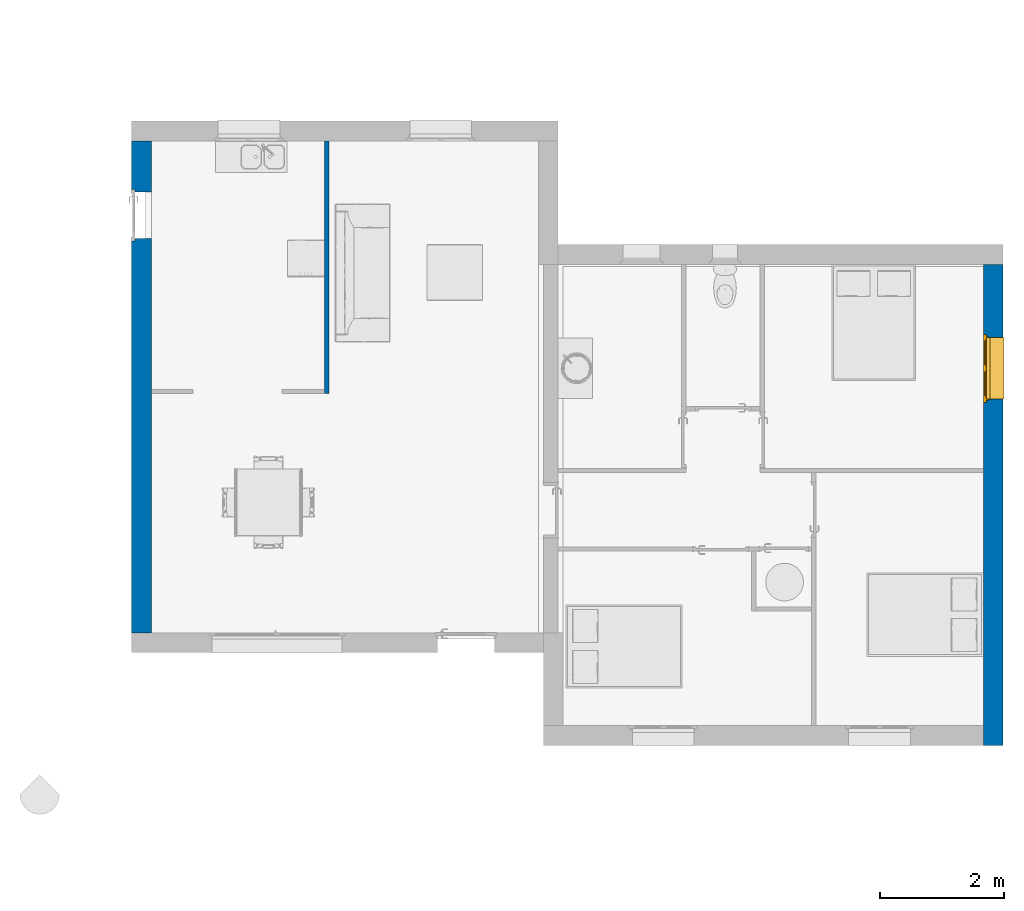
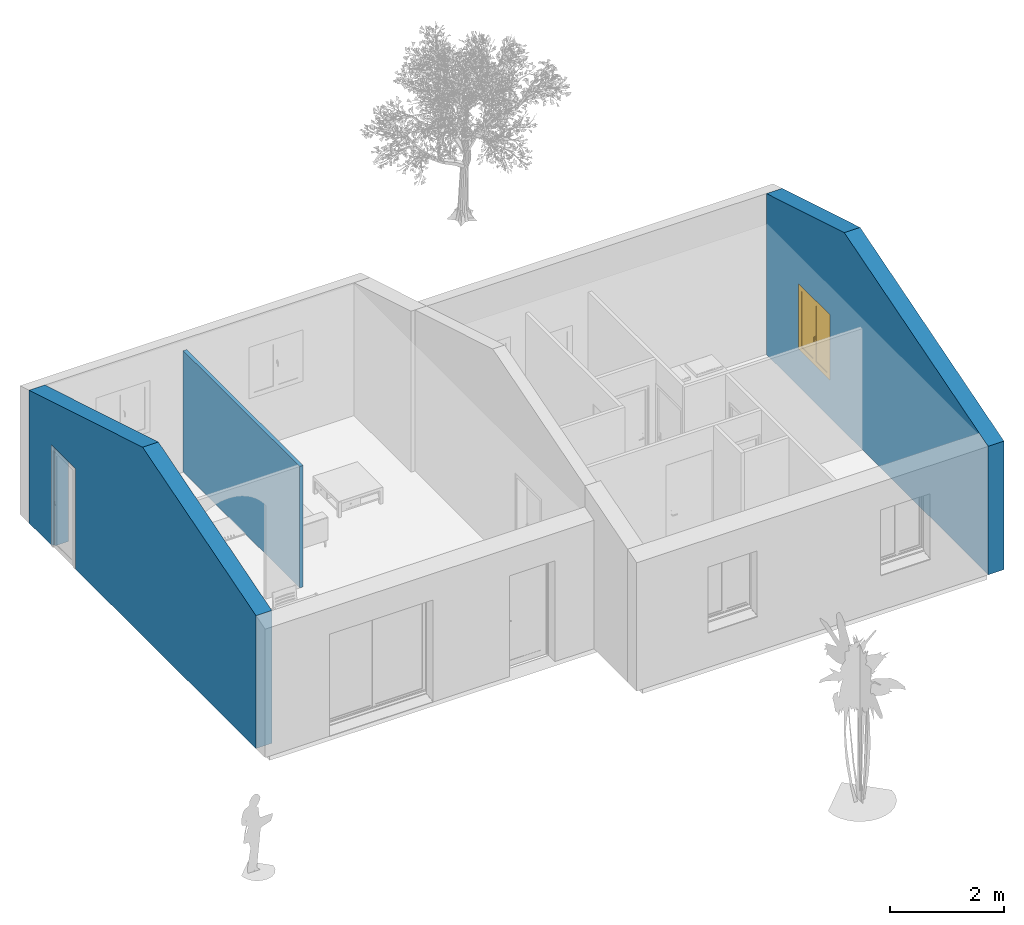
# One storey, part 4 of 18: 3 walls, 1 window, 2 openings.
"""IFC2X3 building model written with IfcOpenShell, lengths in metres."""

from ifc_helpers import new_model, entity, si_unit, converted_unit, derived_unit, direction, frame, frame_2d, origin, place, context, subcontext, project, spatial, polyline, rectangle, extrude, clip, bounded_halfspace, faceted_brep, source, transform, mapped, material, material_list, layer, layer_set, layer_usage, type_object, type_shapes, element, fill, save


model = new_model("IFC2X3")

# Units and contexts
model_context = context("Model", 3, precision=1e-05, world=origin(), true_north=direction((6.12303176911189e-17, 1.0)))
body_context = subcontext(model_context, "Body", "Model", "MODEL_VIEW")
ifc_project = project(units=[si_unit("LENGTHUNIT", "METRE"), si_unit("AREAUNIT", "SQUARE_METRE"), si_unit("VOLUMEUNIT", "CUBIC_METRE"), converted_unit("PLANEANGLEUNIT", "DEGREE", entity("IfcRatioMeasure", 0.0174532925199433), si_unit("PLANEANGLEUNIT", "RADIAN"), dimensions=[0, 0, 0, 0, 0, 0, 0]), si_unit("MASSUNIT", "GRAM", prefix="KILO"), derived_unit("MASSDENSITYUNIT", [(si_unit("MASSUNIT", "GRAM", prefix="KILO"), 1), (si_unit("LENGTHUNIT", "METRE"), -3)]), derived_unit("MOMENTOFINERTIAUNIT", [(si_unit("LENGTHUNIT", "METRE"), 4)]), si_unit("TIMEUNIT", "SECOND"), si_unit("FREQUENCYUNIT", "HERTZ"), si_unit("THERMODYNAMICTEMPERATUREUNIT", "DEGREE_CELSIUS"), derived_unit("THERMALTRANSMITTANCEUNIT", [(si_unit("MASSUNIT", "GRAM", prefix="KILO"), 1), (si_unit("THERMODYNAMICTEMPERATUREUNIT", "KELVIN"), -1), (si_unit("TIMEUNIT", "SECOND"), -3)]), derived_unit("VOLUMETRICFLOWRATEUNIT", [(si_unit("LENGTHUNIT", "METRE"), 3), (si_unit("TIMEUNIT", "SECOND"), -1)]), si_unit("ELECTRICCURRENTUNIT", "AMPERE"), si_unit("ELECTRICVOLTAGEUNIT", "VOLT"), si_unit("POWERUNIT", "WATT"), si_unit("FORCEUNIT", "NEWTON", prefix="KILO"), si_unit("ILLUMINANCEUNIT", "LUX"), si_unit("LUMINOUSFLUXUNIT", "LUMEN"), si_unit("LUMINOUSINTENSITYUNIT", "CANDELA"), derived_unit("USERDEFINED", [(si_unit("MASSUNIT", "GRAM", prefix="KILO"), -1), (si_unit("LENGTHUNIT", "METRE"), -2), (si_unit("TIMEUNIT", "SECOND"), 3), (si_unit("LUMINOUSFLUXUNIT", "LUMEN"), 1)]), derived_unit("LINEARVELOCITYUNIT", [(si_unit("LENGTHUNIT", "METRE"), 1), (si_unit("TIMEUNIT", "SECOND"), -1)]), si_unit("PRESSUREUNIT", "PASCAL"), derived_unit("USERDEFINED", [(si_unit("LENGTHUNIT", "METRE"), -2), (si_unit("MASSUNIT", "GRAM", prefix="KILO"), 1), (si_unit("TIMEUNIT", "SECOND"), -2)]), derived_unit("LINEARFORCEUNIT", [(si_unit("MASSUNIT", "GRAM", prefix="KILO"), 1), (si_unit("LENGTHUNIT", "METRE"), 1), (si_unit("TIMEUNIT", "SECOND"), -2), (si_unit("LENGTHUNIT", "METRE"), -1)]), derived_unit("PLANARFORCEUNIT", [(si_unit("MASSUNIT", "GRAM", prefix="KILO"), 1), (si_unit("LENGTHUNIT", "METRE"), 1), (si_unit("TIMEUNIT", "SECOND"), -2), (si_unit("LENGTHUNIT", "METRE"), -2)])], contexts=[model_context])

# Site, building, storey
site_placement = place(None, origin())
site = spatial("IfcSite", under=ifc_project, at=site_placement, Name="Surface", CompositionType="ELEMENT")
building_placement = place(site_placement, origin())
building = spatial("IfcBuilding", under=site, at=building_placement, CompositionType="ELEMENT")
storey_placement = place(building_placement, origin())
storey = spatial("IfcBuildingStorey", under=building, at=storey_placement, Name="RDC", CompositionType="ELEMENT", Elevation=-1.94916083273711e-14)

# Wall, opening, window
ifc_material_1 = material(Name="Maçonnerie - Enduit")
ifc_layer_1 = layer(ifc_material_1, 0.02)
ifc_material_2 = material(Name="Blocs béton manufacturés")
ifc_layer_2 = layer(ifc_material_2, 0.2)
ifc_material_3 = material(Name="Maçonnerie - Isolant")
ifc_layer_3 = layer(ifc_material_3, 0.1)
ifc_layer_set_1 = layer_set([ifc_layer_1, ifc_layer_2, ifc_layer_3], Name="Mur de base:Ext. Parpaing 20 + Isolant 10")
ifc_layer_usage_1 = layer_usage(ifc_layer_set_1, "AXIS2", "NEGATIVE", 0.16)
wall_type_1 = type_object("IfcWallType", Name="Mur de base:Ext. Parpaing 20 + Isolant 10", PredefinedType="STANDARD", material=ifc_layer_set_1)
wall_1_placement = place(storey_placement, frame((-4.06829269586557, 6.66737977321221, 0.0), z_axis=(0.0, 0.0, 1.0), x_axis=(0.0, -1.0, 0.0)))
wall_1 = element("IfcWallStandardCase", 1, at=wall_1_placement, inside=storey, type_object=wall_type_1, material=ifc_layer_usage_1, Name="Mur de base:Ext. Parpaing 20 + Isolant 10", ObjectType="Mur de base:Ext. Parpaing 20 + Isolant 10", context=body_context, shape_type="Clipping", body=[
    clip(clip(extrude(rectangle(XDim=7.78, YDim=0.32, at=frame_2d((3.89, 0.0), x_axis=(-1.0, 0.0))), origin(), (0.0, 0.0, 1.0), 4.26500000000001), bounded_halfspace(frame((0.0, -0.16, 3.44600000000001), z_axis=(-0.287347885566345, 0.0, 0.957826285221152), x_axis=(0.0, -1.0, 0.0)), False, frame((0.0, -0.16, 3.44600000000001)), polyline([(0.0, 0.0), (2.73000000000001, 0.0), (2.73000000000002, 0.319999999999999), (0.0, 0.32), (0.0, 0.0)]))), bounded_halfspace(frame((2.73000000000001, -0.16, 4.26500000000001), z_axis=(0.287347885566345, 0.0, 0.957826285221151), x_axis=(0.0, 1.0, 0.0)), False, frame((2.73000000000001, -0.16, 4.26500000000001)), polyline([(0.0, 0.0), (4.72999999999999, 0.0), (5.04999999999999, 0.0), (5.04999999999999, 0.32), (0.0, 0.32), (0.0, 0.0)]))),
])
opening_1_placement = place(wall_1_placement, frame((2.23, -0.5, 0.724039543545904), z_axis=(0.0, 0.0, 1.0), x_axis=(0.0, 1.0, 0.0)))
opening_1 = element("IfcOpeningElement", 2, at=opening_1_placement, cuts=wall_1, Name="Mur de base:Ext. Parpaing 20 + Isolant 10", ObjectType="Opening", context=body_context, shape_type="Brep", body=[
    faceted_brep([(0.419999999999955, 1.05, 0.0759604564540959), (0.440000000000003, 1.05, 0.0759604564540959), (0.440000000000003, 1.05, 1.4259604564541), (1.0, 1.05, 1.4259604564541), (1.0, 1.05, 0.0), (0.419999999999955, 1.05, 0.0609604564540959), (0.0, 0.0500000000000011, 0.0759604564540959), (0.340000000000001, 0.0500000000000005, 0.0759604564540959), (0.340000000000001, 0.0500000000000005, 1.42596045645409), (0.0, 0.0500000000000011, 1.4259604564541), (0.0, 1.05, 0.0759604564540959), (0.340000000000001, 1.05, 0.0759604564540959), (0.340000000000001, 1.1, 0.0759604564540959), (0.39, 1.1, 0.0759604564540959), (0.39, 1.06, 0.0759604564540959), (0.440000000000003, 1.06, 0.0759604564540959), (0.419999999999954, 0.0500000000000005, 0.0759604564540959), (0.440000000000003, 0.05, 0.0759604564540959), (0.440000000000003, 0.0400000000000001, 0.0759604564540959), (0.39, 0.0400000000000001, 0.0759604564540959), (0.39, 0.0, 0.0759604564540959), (0.340000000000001, 0.0, 0.0759604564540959), (0.0, 1.05, 1.4259604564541), (0.440000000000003, 0.0500000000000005, 1.4259604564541), (1.0, 0.0499999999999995, 1.4259604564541), (1.0, 0.0499999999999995, 0.0), (0.419999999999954, 0.0500000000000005, 0.0609604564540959), (0.340000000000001, 1.1, 1.47596045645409), (0.39, 1.1, 1.47596045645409), (0.39, 0.0, 1.47596045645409), (0.39, 0.0400000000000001, 1.4359604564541), (0.39, 1.06, 1.4359604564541), (0.440000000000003, 1.06, 1.4359604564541), (0.440000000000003, 0.039999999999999, 1.4359604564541), (0.340000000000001, 1.05, 1.4259604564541), (0.340000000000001, 0.0, 1.47596045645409)], [[[0, 1, 2, 3, 4, 5]], [[6, 7, 8, 9]], [[10, 11, 12, 13, 14, 15, 1, 0, 16, 17, 18, 19, 20, 21, 7, 6]], [[10, 6, 9, 22]], [[3, 2, 23, 24]], [[3, 24, 25, 4]], [[4, 25, 26, 5]], [[5, 26, 16, 0]], [[12, 27, 28, 13]], [[13, 28, 29, 20, 19, 30, 31, 14]], [[14, 31, 32, 15]], [[15, 32, 33, 18, 17, 23, 2, 1]], [[11, 34, 8, 7, 21, 35, 27, 12]], [[27, 35, 29, 28]], [[30, 33, 32, 31]], [[29, 35, 21, 20]], [[19, 18, 33, 30]], [[9, 8, 34, 22]], [[24, 23, 17, 16, 26, 25]], [[22, 34, 11, 10]]]),
])
ifc_material_4 = material(Name="Fenêtre - Poignée")
ifc_material_5 = material(Name="Fenêtre - Appui")
ifc_material_6 = material(Name="Fenêtre - Cadre")
ifc_material_7 = material(Name="Fenêtre - Vitrage")
ifc_material_list_1 = material_list([ifc_material_4, ifc_material_5, ifc_material_6, ifc_material_7])
ifc_material_list_2 = material_list([ifc_material_7, ifc_material_6, ifc_material_6, ifc_material_5, ifc_material_4])
window_style = type_object("IfcWindowStyle", Name="2 Vantaux - Droits:1m x 1.35m - Appui Alu", ConstructionType="NOTDEFINED", OperationType="DOUBLE_PANEL_VERTICAL", ParameterTakesPrecedence=False, Sizeable=False, material=ifc_material_list_2)
shared_shape = source(origin(), body_context, "Body", "Brep", [
    faceted_brep([(0.580646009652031, -0.66600000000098, 0.697994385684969), (0.582033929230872, -0.66600000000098, 0.696606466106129), (0.582033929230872, -0.66600000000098, 0.685292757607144), (0.580667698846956, -0.66600000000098, 0.683926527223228), (0.569332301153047, -0.66600000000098, 0.683926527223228), (0.567966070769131, -0.66600000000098, 0.685292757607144), (0.567966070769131, -0.66600000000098, 0.696606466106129), (0.569353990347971, -0.66600000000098, 0.697994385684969), (0.580646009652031, -0.678913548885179, 0.697994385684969), (0.582033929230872, -0.67833865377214, 0.696606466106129), (0.582033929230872, -0.69164600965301, 0.683299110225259), (0.582033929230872, -0.69164600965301, 0.595960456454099), (0.582033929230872, -0.680332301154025, 0.595960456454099), (0.582033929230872, -0.680332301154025, 0.678612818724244), (0.582033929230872, -0.673652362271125, 0.685292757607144), (0.580667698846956, -0.673086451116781, 0.683926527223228), (0.569332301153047, -0.673086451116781, 0.683926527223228), (0.567966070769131, -0.673652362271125, 0.685292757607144), (0.567966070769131, -0.680332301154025, 0.678612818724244), (0.567966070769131, -0.680332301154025, 0.595960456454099), (0.567966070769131, -0.69164600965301, 0.595960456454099), (0.567966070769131, -0.69164600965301, 0.683299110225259), (0.567966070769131, -0.67833865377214, 0.696606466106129), (0.569353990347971, -0.678913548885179, 0.697994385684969), (0.580646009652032, -0.69303392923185, 0.683874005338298), (0.580667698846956, -0.67896607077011, 0.6780469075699), (0.569332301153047, -0.67896607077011, 0.6780469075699), (0.569353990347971, -0.69303392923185, 0.683874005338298), (0.580646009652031, -0.69303392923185, 0.595960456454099), (0.569353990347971, -0.69303392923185, 0.595960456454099), (0.569332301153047, -0.678966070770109, 0.595960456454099), (0.580667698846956, -0.678966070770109, 0.595960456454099)], [[[0, 1, 2, 3, 4, 5, 6, 7]], [[1, 0, 8, 9]], [[2, 1, 9, 10, 11, 12, 13, 14]], [[3, 2, 14, 15]], [[4, 3, 15, 16]], [[5, 4, 16, 17]], [[6, 5, 17, 18, 19, 20, 21, 22]], [[7, 6, 22, 23]], [[0, 7, 23, 8]], [[9, 8, 24, 10]], [[15, 14, 13, 25]], [[16, 15, 25, 26]], [[17, 16, 26, 18]], [[23, 22, 21, 27]], [[8, 23, 27, 24]], [[28, 29, 20, 19, 30, 31, 12, 11]], [[10, 24, 28, 11]], [[25, 13, 12, 31]], [[26, 25, 31, 30]], [[18, 26, 30, 19]], [[27, 21, 20, 29]], [[24, 27, 29, 28]]]),
    faceted_brep([(0.582000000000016, -0.666000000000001, 0.715960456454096), (0.568, -0.666000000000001, 0.715960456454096), (0.563, -0.666000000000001, 0.710960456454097), (0.563, -0.666000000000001, 0.640960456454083), (0.567999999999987, -0.666000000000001, 0.635960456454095), (0.582000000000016, -0.666000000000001, 0.635960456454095), (0.587000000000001, -0.666000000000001, 0.640960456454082), (0.587000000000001, -0.666000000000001, 0.710960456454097), (0.582000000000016, -0.660000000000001, 0.715960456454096), (0.587000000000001, -0.660000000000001, 0.710960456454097), (0.587000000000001, -0.660000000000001, 0.640960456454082), (0.582000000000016, -0.660000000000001, 0.635960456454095), (0.567999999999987, -0.660000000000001, 0.635960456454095), (0.563, -0.660000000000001, 0.640960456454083), (0.563, -0.660000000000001, 0.710960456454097), (0.568, -0.660000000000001, 0.715960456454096)], [[[0, 1, 2, 3, 4, 5, 6, 7]], [[8, 9, 10, 11, 12, 13, 14, 15]], [[1, 0, 8, 15]], [[2, 1, 15, 14]], [[3, 2, 14, 13]], [[4, 3, 13, 12]], [[5, 4, 12, 11]], [[6, 5, 11, 10]], [[7, 6, 10, 9]], [[0, 7, 9, 8]]]),
    faceted_brep([(1.05, -0.324999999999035, 0.0394140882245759), (1.05, -0.574999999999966, 0.0656901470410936), (1.05, -0.574999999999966, 0.075960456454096), (1.05, -0.579999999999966, 0.075960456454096), (1.05, -0.579999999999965, 0.0609604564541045), (1.05, -0.329999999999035, 0.0346843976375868), (1.05, -0.329999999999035, 0.0243838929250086), (1.05, -0.324999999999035, 0.0238583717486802), (0.0499999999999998, -0.324999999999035, 0.0394140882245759), (0.0499999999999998, -0.324999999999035, 0.0238583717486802), (0.0499999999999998, -0.329999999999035, 0.0243838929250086), (0.0499999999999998, -0.329999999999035, 0.0346843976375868), (0.0499999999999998, -0.579999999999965, 0.0609604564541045), (0.0499999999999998, -0.579999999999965, 0.075960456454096), (0.0499999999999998, -0.574999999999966, 0.075960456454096), (0.0499999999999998, -0.574999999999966, 0.0656901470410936)], [[[0, 1, 2, 3, 4, 5, 6, 7]], [[8, 9, 10, 11, 12, 13, 14, 15]], [[1, 0, 8, 15]], [[2, 1, 15, 14]], [[3, 2, 14, 13]], [[4, 3, 13, 12]], [[5, 4, 12, 11]], [[6, 5, 11, 10]], [[7, 6, 10, 9]], [[0, 7, 9, 8]]]),
    faceted_brep([(0.0500000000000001, -0.324999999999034, 0.0408400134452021), (0.0500000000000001, -0.324999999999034, 0.0394140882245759), (0.0499999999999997, -0.574999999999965, 0.0656901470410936), (0.0499999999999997, -0.574999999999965, 0.0707176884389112), (0.0500000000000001, -0.328581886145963, 0.0448181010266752), (0.0500000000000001, -0.326027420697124, 0.0435165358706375), (0.0549999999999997, -0.574999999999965, 0.0707176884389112), (0.0549999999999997, -0.574999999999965, 0.0656901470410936), (0.0550000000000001, -0.324999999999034, 0.0394140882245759), (0.0550000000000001, -0.324999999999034, 0.0408400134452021), (0.0550000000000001, -0.326027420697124, 0.0435165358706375), (0.0550000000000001, -0.328581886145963, 0.0448181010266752)], [[[0, 1, 2, 3, 4, 5]], [[6, 7, 8, 9, 10, 11]], [[2, 1, 8, 7]], [[3, 2, 7, 6]], [[4, 3, 6, 11]], [[4, 11, 10, 5]], [[10, 9, 0, 5]], [[1, 0, 9, 8]]]),
    faceted_brep([(1.045, -0.324999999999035, 0.0408400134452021), (1.045, -0.324999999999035, 0.0394140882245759), (1.045, -0.574999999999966, 0.0656901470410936), (1.045, -0.574999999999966, 0.0707176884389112), (1.045, -0.328581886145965, 0.0448181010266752), (1.045, -0.326027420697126, 0.0435165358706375), (1.05, -0.574999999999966, 0.0707176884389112), (1.05, -0.574999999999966, 0.0656901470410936), (1.05, -0.324999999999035, 0.0394140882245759), (1.05, -0.324999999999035, 0.0408400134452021), (1.05, -0.326027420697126, 0.0435165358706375), (1.05, -0.328581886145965, 0.0448181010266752)], [[[0, 1, 2, 3, 4, 5]], [[6, 7, 8, 9, 10, 11]], [[2, 1, 8, 7]], [[3, 2, 7, 6]], [[4, 3, 6, 11]], [[4, 11, 10, 5]], [[10, 9, 0, 5]], [[1, 0, 9, 8]]]),
    faceted_brep([(0.549999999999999, -0.619999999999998, 1.4259604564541), (0.549999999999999, -0.65999999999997, 1.4259604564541), (0.549999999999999, -0.65999999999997, 0.125960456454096), (0.549999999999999, -0.619999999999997, 0.125960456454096), (0.0499999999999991, -0.659999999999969, 0.125960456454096), (0.0499999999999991, -0.619999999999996, 0.125960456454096), (0.0499999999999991, -0.659999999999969, 1.4259604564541), (0.0999999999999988, -0.659999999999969, 0.175960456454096), (0.0999999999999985, -0.659999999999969, 1.3759604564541), (0.5, -0.65999999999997, 1.3759604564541), (0.5, -0.65999999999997, 0.175960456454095), (0.049999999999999, -0.619999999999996, 1.4259604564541), (0.5, -0.619999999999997, 0.175960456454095), (0.5, -0.619999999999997, 1.3759604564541), (0.0999999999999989, -0.619999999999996, 1.3759604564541), (0.0999999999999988, -0.619999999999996, 0.175960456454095)], [[[0, 1, 2, 3]], [[3, 2, 4, 5]], [[2, 1, 6, 4], [7, 8, 9, 10]], [[5, 4, 6, 11]], [[5, 11, 0, 3], [12, 13, 14, 15]], [[9, 13, 12, 10]], [[10, 12, 15, 7]], [[7, 15, 14, 8]], [[11, 6, 1, 0]], [[8, 14, 13, 9]]]),
    faceted_brep([(0.6, -0.634000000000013, 0.175960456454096), (0.6, -0.634000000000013, 1.37596045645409), (1.0, -0.634000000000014, 1.37596045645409), (1.0, -0.634000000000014, 0.175960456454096), (0.6, -0.646000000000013, 0.175960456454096), (0.599999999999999, -0.646000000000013, 1.37596045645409), (1.0, -0.646000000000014, 1.37596045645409), (1.0, -0.646000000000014, 0.175960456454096)], [[[0, 1, 2, 3]], [[1, 0, 4, 5]], [[3, 2, 6, 7]], [[0, 3, 7, 4]], [[2, 1, 5, 6]], [[4, 7, 6, 5]]]),
    faceted_brep([(0.5, -0.634000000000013, 0.175960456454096), (0.5, -0.634000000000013, 1.3759604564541), (0.5, -0.646000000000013, 1.3759604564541), (0.5, -0.646000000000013, 0.175960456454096), (0.0999999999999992, -0.634000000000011, 0.175960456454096), (0.0999999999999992, -0.646000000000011, 0.175960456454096), (0.0999999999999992, -0.634000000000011, 1.3759604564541), (0.0999999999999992, -0.646000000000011, 1.3759604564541)], [[[0, 1, 2, 3]], [[4, 0, 3, 5]], [[6, 4, 5, 7]], [[7, 5, 3, 2]], [[1, 6, 7, 2]], [[6, 1, 0, 4]]]),
    faceted_brep([(0.6, -0.620000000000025, 1.37596045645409), (0.599999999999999, -0.660000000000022, 1.3759604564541), (0.6, -0.660000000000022, 0.175960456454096), (0.6, -0.620000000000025, 0.175960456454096), (1.0, -0.660000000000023, 0.175960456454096), (1.0, -0.620000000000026, 0.175960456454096), (1.0, -0.660000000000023, 1.37596045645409), (1.05, -0.660000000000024, 0.125960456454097), (1.05, -0.660000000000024, 1.42596045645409), (0.55, -0.660000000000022, 1.42596045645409), (0.55, -0.660000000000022, 0.125960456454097), (1.0, -0.620000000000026, 1.37596045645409), (0.55, -0.620000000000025, 0.125960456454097), (0.55, -0.620000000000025, 1.42596045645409), (1.05, -0.620000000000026, 1.42596045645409), (1.05, -0.620000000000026, 0.125960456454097)], [[[0, 1, 2, 3]], [[3, 2, 4, 5]], [[2, 1, 6, 4], [7, 8, 9, 10]], [[5, 4, 6, 11]], [[5, 11, 0, 3], [12, 13, 14, 15]], [[9, 13, 12, 10]], [[10, 12, 15, 7]], [[7, 15, 14, 8]], [[11, 6, 1, 0]], [[8, 14, 13, 9]]], outer=[[True], [True], [False, True], [True], [False, True], [True], [True], [True], [True], [True]]),
    faceted_brep([(0.0, -0.660000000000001, 0.075960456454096), (0.0, -0.610000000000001, 0.075960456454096), (0.0499999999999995, -0.610000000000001, 0.075960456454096), (0.0499999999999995, -0.560000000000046, 0.075960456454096), (1.05, -0.560000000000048, 0.0759604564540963), (1.05, -0.610000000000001, 0.075960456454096), (1.1, -0.610000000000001, 0.075960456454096), (1.1, -0.660000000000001, 0.075960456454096), (0.0, -0.660000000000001, 1.4759604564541), (0.0, -0.610000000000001, 1.4759604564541), (1.1, -0.610000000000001, 1.4759604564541), (1.05, -0.610000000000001, 0.115336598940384), (0.0499999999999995, -0.610000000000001, 0.1153365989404), (0.0649999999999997, -0.610000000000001, 1.4109604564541), (0.0649999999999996, -0.610000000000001, 0.140960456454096), (1.035, -0.610000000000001, 0.140960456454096), (1.035, -0.610000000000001, 1.4109604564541), (0.0499999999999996, -0.550000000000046, 0.0992596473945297), (0.0499999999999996, -0.550000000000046, 0.0709604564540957), (0.0499999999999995, -0.560000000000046, 0.0709604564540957), (1.05, -0.560000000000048, 0.0709604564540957), (1.05, -0.550000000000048, 0.0709604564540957), (1.05, -0.550000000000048, 0.0992596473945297), (1.1, -0.660000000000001, 1.4759604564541), (1.05, -0.660000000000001, 1.4259604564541), (1.05, -0.660000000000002, 0.125960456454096), (0.0499999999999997, -0.660000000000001, 0.125960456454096), (0.0499999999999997, -0.660000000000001, 1.4259604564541), (0.0649999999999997, -0.620000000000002, 1.4109604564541), (0.0649999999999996, -0.620000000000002, 0.140960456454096), (1.035, -0.620000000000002, 0.140960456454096), (1.035, -0.620000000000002, 1.4109604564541), (1.05, -0.620000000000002, 1.4259604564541), (0.0499999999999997, -0.620000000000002, 1.4259604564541), (0.0499999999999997, -0.620000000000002, 0.125960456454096), (1.05, -0.620000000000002, 0.125960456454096)], [[[0, 1, 2, 3, 4, 5, 6, 7]], [[1, 0, 8, 9]], [[1, 9, 10, 6, 5, 11, 12, 2], [13, 14, 15, 16]], [[12, 17, 18, 19, 3, 2]], [[3, 19, 20, 4]], [[4, 20, 21, 22, 11, 5]], [[6, 10, 23, 7]], [[0, 7, 23, 8], [24, 25, 26, 27]], [[13, 28, 29, 14]], [[29, 30, 15, 14]], [[31, 16, 15, 30]], [[17, 12, 11, 22]], [[32, 33, 34, 35], [28, 31, 30, 29]], [[34, 33, 27, 26]], [[26, 25, 35, 34]], [[24, 32, 35, 25]], [[18, 17, 22, 21]], [[19, 18, 21, 20]], [[13, 16, 31, 28]], [[33, 32, 24, 27]], [[10, 9, 8, 23]]]),
    faceted_brep([(0.0499999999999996, -0.559999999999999, 0.075960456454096), (0.0499999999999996, -0.610000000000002, 0.075960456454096), (0.0399999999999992, -0.610000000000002, 0.075960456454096), (0.0399999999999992, -0.559999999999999, 0.075960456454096), (0.0499999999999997, -0.559999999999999, 1.4259604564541), (0.0499999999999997, -0.610000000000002, 1.4259604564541), (1.05, -0.610000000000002, 1.4259604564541), (1.05, -0.610000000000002, 0.075960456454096), (1.06, -0.610000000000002, 0.075960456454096), (1.06, -0.610000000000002, 1.4359604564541), (0.0399999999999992, -0.610000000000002, 1.4359604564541), (0.0399999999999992, -0.559999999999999, 1.4359604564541), (1.06, -0.559999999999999, 1.4359604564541), (1.06, -0.559999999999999, 0.075960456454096), (1.05, -0.559999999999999, 0.075960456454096), (1.05, -0.559999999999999, 1.4259604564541)], [[[0, 1, 2, 3]], [[1, 0, 4, 5]], [[2, 1, 5, 6, 7, 8, 9, 10]], [[3, 2, 10, 11]], [[0, 3, 11, 12, 13, 14, 15, 4]], [[6, 15, 14, 7]], [[14, 13, 8, 7]], [[12, 9, 8, 13]], [[5, 4, 15, 6]], [[11, 10, 9, 12]]]),
    faceted_brep([(0.569999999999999, -0.612000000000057, 1.41096045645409), (0.529999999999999, -0.612000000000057, 1.41096045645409), (0.529999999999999, -0.620000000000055, 1.41096045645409), (0.569999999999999, -0.620000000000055, 1.41096045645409), (0.569999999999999, -0.612000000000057, 0.140960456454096), (0.569999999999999, -0.620000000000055, 0.140960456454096), (0.529999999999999, -0.620000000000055, 0.140960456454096), (0.529999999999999, -0.612000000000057, 0.140960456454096)], [[[0, 1, 2, 3]], [[4, 5, 6, 7]], [[1, 0, 4, 7]], [[2, 1, 7, 6]], [[3, 2, 6, 5]], [[0, 3, 5, 4]]]),
])
type_shapes(window_style, [shared_shape])
window_placement = place(opening_1_placement, frame((1.0, 1.1, 0.0), z_axis=(0.0, 0.0, 1.0), x_axis=(0.0, -1.0, 0.0)))
window = element("IfcWindow", 3, at=window_placement, inside=storey, type_object=window_style, material=ifc_material_list_1, Name="2 Vantaux - Droits:1m x 1.35m - Appui Alu", ObjectType="2 Vantaux - Droits:1m x 1.35m - Appui Alu", OverallHeight=1.48, OverallWidth=1.1, context=body_context, shape_type="MappedRepresentation", body=[
    mapped(shared_shape, transform((0.0, 0.0, 0.0), scale=1.0)),
])
fill(opening_1, window)

# Wall, opening
ifc_layer_usage_2 = layer_usage(ifc_layer_set_1, "AXIS2", "NEGATIVE", 0.16)
wall_2_placement = place(storey_placement, frame((-17.8482926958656, 0.707379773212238, 0.0), z_axis=(0.0, 0.0, 1.0), x_axis=(0.0, 1.0, 0.0)))
wall_2 = element("IfcWallStandardCase", 4, at=wall_2_placement, inside=storey, type_object=wall_type_1, material=ifc_layer_usage_2, Name="Mur de base:Ext. Parpaing 20 + Isolant 10", ObjectType="Mur de base:Ext. Parpaing 20 + Isolant 10", context=body_context, shape_type="Clipping", body=[
    clip(clip(extrude(rectangle(XDim=7.96, YDim=0.320000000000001, at=frame_2d((3.98, -4.85722573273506e-16), x_axis=(-1.0, 0.0))), origin(), (0.0, 0.0, 1.0), 4.04000000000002), bounded_halfspace(frame((7.96, -0.16, 2.84600000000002), z_axis=(0.287347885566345, 0.0, 0.957826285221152), x_axis=(0.0, 1.0, 0.0)), False, frame((7.96, -0.16, 2.84600000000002)), polyline([(0.0, 0.0), (0.0, 0.320000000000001), (-3.98, 0.320000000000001), (-3.98, 0.0), (0.0, 0.0)]))), bounded_halfspace(frame((0.0, 0.160000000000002, 2.84600000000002), z_axis=(-0.287347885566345, 0.0, 0.957826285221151), x_axis=(0.0, -1.0, 0.0)), False, frame((0.0, 0.160000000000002, 2.84600000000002)), polyline([(0.0, 0.0), (0.0, -0.320000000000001), (3.98, -0.320000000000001), (3.98, 0.0), (0.0, 0.0)]))),
])
opening_2_placement = place(wall_2_placement, frame((6.34000000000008, 0.45999999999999, 0.0), z_axis=(0.0, 0.0, 1.0), x_axis=(0.0, -1.0, 0.0)))
element("IfcOpeningElement", 5, at=opening_2_placement, cuts=wall_2, Name="Mur de base:Ext. Parpaing 20 + Isolant 10", ObjectType="Opening", context=body_context, shape_type="Brep", body=[
    faceted_brep([(0.0, 0.0400000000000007, 2.11000000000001), (0.300000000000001, 0.0400000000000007, 2.11000000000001), (0.300000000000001, 0.789999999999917, 2.11000000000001), (0.0, 0.789999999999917, 2.11000000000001), (0.920000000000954, 0.0399999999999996, 0.0), (0.350000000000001, 0.0400000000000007, 0.0), (0.350000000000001, 0.0, 0.0), (0.300000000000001, 0.0, 0.0), (0.300000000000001, 0.0400000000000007, 0.0), (0.0, 0.0400000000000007, 0.0), (0.0, 0.789999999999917, 0.0), (0.300000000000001, 0.789999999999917, 0.0), (0.300000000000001, 0.829999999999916, 0.0), (0.350000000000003, 0.829999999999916, 0.0), (0.350000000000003, 0.789999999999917, 0.0), (0.920000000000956, 0.789999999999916, 0.0), (0.920000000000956, 0.0399999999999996, 2.11000000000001), (0.920000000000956, 0.789999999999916, 2.11000000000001), (0.350000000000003, 0.0400000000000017, 2.11000000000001), (0.299999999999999, 0.0, 2.15000000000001), (0.300000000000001, 0.829999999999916, 2.15000000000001), (0.350000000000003, 0.829999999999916, 2.15000000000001), (0.350000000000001, 0.0, 2.15000000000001), (0.350000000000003, 0.789999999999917, 2.11000000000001)], [[[0, 1, 2, 3]], [[4, 5, 6, 7, 8, 9, 10, 11, 12, 13, 14, 15]], [[16, 4, 15, 17]], [[3, 2, 11, 10]], [[3, 10, 9, 0]], [[16, 18, 5, 4]], [[11, 2, 1, 8, 7, 19, 20, 12]], [[12, 20, 21, 13]], [[13, 21, 22, 6, 5, 18, 23, 14]], [[19, 22, 21, 20]], [[7, 6, 22, 19]], [[9, 8, 1, 0]], [[15, 14, 23, 17]], [[17, 23, 18, 16]]]),
])

# Wall
ifc_material_8 = material(Name="Mur par défaut")
ifc_layer_4 = layer(ifc_material_8, 0.07)
ifc_layer_set_2 = layer_set([ifc_layer_4], Name="Mur de base:Int. Plâtre 70 mm")
ifc_layer_usage_3 = layer_usage(ifc_layer_set_2, "AXIS2", "NEGATIVE", 0.035)
wall_type_2 = type_object("IfcWallType", Name="Mur de base:Int. Plâtre 70 mm", PredefinedType="STANDARD", material=ifc_layer_set_2)
wall_3_placement = place(storey_placement, frame((-14.8532926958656, 8.66737977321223, 0.0), z_axis=(0.0, 0.0, 1.0), x_axis=(0.0, -1.0, 0.0)))
element("IfcWallStandardCase", 6, at=wall_3_placement, inside=storey, type_object=wall_type_2, material=ifc_layer_usage_3, Name="Mur de base:Int. Plâtre 70 mm", ObjectType="Mur de base:Int. Plâtre 70 mm", context=body_context, shape_type="SweptSolid", body=[
    extrude(rectangle(XDim=4.09, YDim=0.0700000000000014, at=frame_2d((2.045, -5.20417042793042e-17), x_axis=(-1.0, 0.0))), origin(), (0.0, 0.0, 1.0), 2.6),
])

save(model, "model.ifc")
